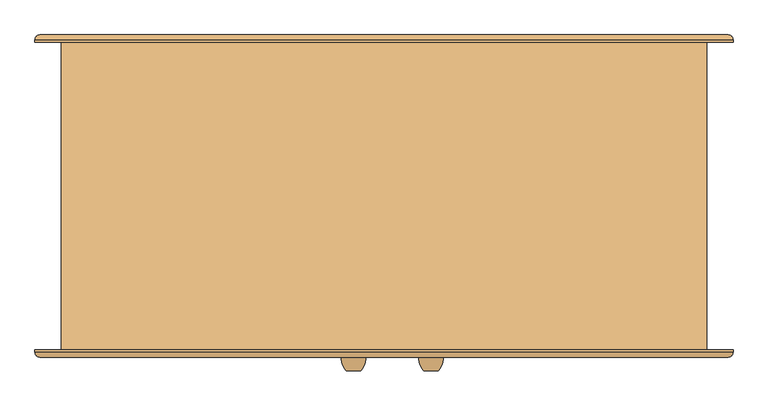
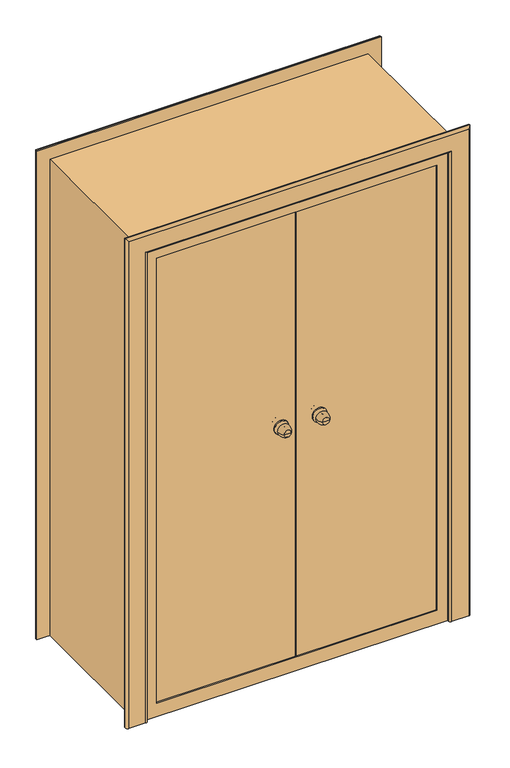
"""IFC4 building model written with IfcOpenShell, lengths in millimetres: door geometry, Наружная дверь 2-Навесная - Один проем наружу с порогом - 31173-2003 : ДСН ДКН М2 2100-1300 ГОСТ 31173-2003."""

from ifc_helpers import new_model, si_unit, point, frame, origin, place, context, project, spatial, polyline, circle_curve, ellipse_curve, trimmed, outline, extrude, faceted_brep, source, transform, mapped, element, save
from ifc_brep_helpers import plane_surface, cylinder_surface, revolved_surface, advanced_brep


def door_e9d63ae3(model_context):
    return source(origin(), model_context, "Body", "SolidModel", [
        advanced_brep(
        [(113.0, -363.0, 1100.0), (83.0, -363.0, 1100.0), (98.0, -363.0, 1100.0), (123.0, -333.0, 1100.0), (73.0, -333.0, 1100.0), (116.0, -333.0, 1100.0), (80.0, -333.0, 1100.0), (108.0, -325.0, 1100.0), (88.0, -325.0, 1100.0), (108.0, -319.0, 1100.0), (88.0, -319.0, 1100.0), (68.0, -319.0, 1100.0), (128.0, -319.0, 1100.0), (68.0, -313.0, 1100.0), (128.0, -313.0, 1100.0)],
        [
            (0, 1, circle_curve(frame((98.0, -363.0, 1100.0), z_axis=(0.0, -1.0, 0.0), x_axis=(-1.0, 0.0, 0.0)), 15.0)),
            (1, 2),
            (2, 0),
            (1, 0, circle_curve(frame((98.0, -363.0, 1100.0), z_axis=(0.0, -1.0, 0.0), x_axis=(-1.0, 0.0, 0.0)), 15.0)),
            (0, 3, circle_curve(frame((88.3773735, -338.1257912, 1100.0), z_axis=(0.0, 0.0, 1.0), x_axis=(-1.0, 0.0, 0.0)), 35.0)),
            (3, 4, circle_curve(frame((98.0, -333.0, 1100.0), z_axis=(0.0, -1.0, 0.0), x_axis=(-1.0, 0.0, 0.0)), 25.0)),
            (4, 1, circle_curve(frame((107.6226265, -338.1257912, 1100.0), z_axis=(0.0, 0.0, 1.0), x_axis=(1.0, 0.0, 0.0)), 35.0)),
            (4, 3, circle_curve(frame((98.0, -333.0, 1100.0), z_axis=(0.0, -1.0, 0.0), x_axis=(-1.0, 0.0, 0.0)), 25.0)),
            (3, 5),
            (5, 6, circle_curve(frame((98.0, -333.0, 1100.0), z_axis=(0.0, -1.0, 0.0), x_axis=(-1.0, 0.0, 0.0)), 18.0)),
            (6, 4),
            (6, 5, circle_curve(frame((98.0, -333.0, 1100.0), z_axis=(0.0, -1.0, 0.0), x_axis=(-1.0, 0.0, 0.0)), 18.0)),
            (5, 7, circle_curve(frame((116.0, -325.0, 1100.0), z_axis=(0.0, 0.0, -1.0), x_axis=(-1.0, 0.0, 0.0)), 8.0)),
            (7, 8, circle_curve(frame((98.0, -325.0, 1100.0), z_axis=(0.0, -1.0, 0.0), x_axis=(-1.0, 0.0, 0.0)), 10.0)),
            (8, 6, circle_curve(frame((80.0, -325.0, 1100.0), z_axis=(0.0, 0.0, -1.0), x_axis=(1.0, 0.0, 0.0)), 8.0)),
            (8, 7, circle_curve(frame((98.0, -325.0, 1100.0), z_axis=(0.0, -1.0, 0.0), x_axis=(-1.0, 0.0, 0.0)), 10.0)),
            (7, 9),
            (9, 10, circle_curve(frame((98.0, -319.0, 1100.0), z_axis=(0.0, -1.0, 0.0), x_axis=(-1.0, 0.0, 0.0)), 10.0)),
            (10, 8),
            (10, 9, circle_curve(frame((98.0, -319.0, 1100.0), z_axis=(0.0, -1.0, 0.0), x_axis=(-1.0, 0.0, 0.0)), 10.0)),
            (11, 12, circle_curve(frame((98.0, -319.0, 1100.0), z_axis=(0.0, -1.0, 0.0), x_axis=(1.0, 0.0, 0.0)), 30.0)),
            (12, 11, circle_curve(frame((98.0, -319.0, 1100.0), z_axis=(0.0, -1.0, 0.0), x_axis=(1.0, 0.0, 0.0)), 30.0)),
            (13, 14, circle_curve(frame((98.0, -313.0, 1100.0), z_axis=(0.0, 1.0, 0.0), x_axis=(1.0, 0.0, 0.0)), 30.0)),
            (14, 13, circle_curve(frame((98.0, -313.0, 1100.0), z_axis=(0.0, 1.0, 0.0), x_axis=(1.0, 0.0, 0.0)), 30.0)),
            (11, 13),
            (14, 12),
        ],
        [
            plane_surface(frame((98.0, -363.0, 1100.0), z_axis=(0.0, -1.0, 0.0), x_axis=(-1.0, 0.0, 0.0))),
            revolved_surface(trimmed(ellipse_curve(frame((107.6226265, -338.1257912, 1100.0), z_axis=(0.0, 0.0, -1.0), x_axis=(1.0, 0.0, 0.0)), 35.0, 35.0), [point((83.0, -363.0, 1100.0))], [point((73.0, -333.0, 1100.0))], True, "CARTESIAN"), (98.0, -393.0, 1100.0), (0.0, 1.0, 0.0)),
            plane_surface(frame((98.0, -333.0, 1100.0), z_axis=(0.0, 1.0, 0.0), x_axis=(-1.0, 0.0, 0.0))),
            revolved_surface(trimmed(ellipse_curve(frame((80.0, -325.0, 1100.0), z_axis=(0.0, 0.0, 1.0), x_axis=(1.0, 0.0, 0.0)), 8.0, 8.0), [point((80.0, -333.0, 1100.0))], [point((88.0, -325.0, 1100.0))], True, "CARTESIAN"), (98.0, -393.0, 1100.0), (0.0, 1.0, 0.0)),
            cylinder_surface(frame((98.0, -393.0, 1100.0), z_axis=(0.0, 1.0, 0.0), x_axis=(-1.0, 0.0, 0.0)), 10.0),
            plane_surface(frame((128.0, -319.0, 1100.0), z_axis=(0.0, -1.0, 0.0), x_axis=(0.0, 0.0, 1.0))),
            plane_surface(frame((128.0, -313.0, 1100.0), z_axis=(0.0, 1.0, 0.0), x_axis=(0.0, 0.0, -1.0))),
            cylinder_surface(frame((98.0, -313.0, 1100.0), z_axis=(0.0, -1.0, 0.0), x_axis=(1.0, 0.0, 0.0)), 30.0),
        ],
        [
            (0, [[1, 2, 3]]),
            (0, [[-2, 4, -3]]),
            (1, [[-1, 5, 6, 7]]),
            (1, [[-4, -7, 8, -5]]),
            (2, [[-6, 9, 10, 11]]),
            (2, [[-8, -11, 12, -9]]),
            (3, [[-10, 13, 14, 15]]),
            (3, [[-12, -15, 16, -13]]),
            (4, [[-14, 17, 18, 19]]),
            (4, [[-16, -19, 20, -17]]),
            (5, [[21, 22], [-18, -20]]),
            (6, [[23, 24]]),
            (7, [[-21, 25, -24, 26]]),
            (7, [[-22, -26, -23, -25]]),
        ],
    ),
        advanced_brep(
        [(83.0, -223.0, 1100.0), (113.0, -223.0, 1100.0), (98.0, -223.0, 1100.0), (73.0, -253.0, 1100.0), (123.0, -253.0, 1100.0), (80.0, -253.0, 1100.0), (116.0, -253.0, 1100.0), (88.0, -261.0, 1100.0), (108.0, -261.0, 1100.0), (88.0, -267.0, 1100.0), (108.0, -267.0, 1100.0), (128.0, -267.0, 1100.0), (68.0, -267.0, 1100.0), (128.0, -273.0, 1100.0), (68.0, -273.0, 1100.0)],
        [
            (0, 1, circle_curve(frame((98.0, -223.0, 1100.0), z_axis=(0.0, 1.0, 0.0), x_axis=(1.0, 0.0, 0.0)), 15.0)),
            (1, 2),
            (2, 0),
            (1, 0, circle_curve(frame((98.0, -223.0, 1100.0), z_axis=(0.0, 1.0, 0.0), x_axis=(1.0, 0.0, 0.0)), 15.0)),
            (0, 3, circle_curve(frame((107.6226265, -247.8742088, 1100.0), z_axis=(0.0, 0.0, 1.0), x_axis=(1.0, 0.0, 0.0)), 35.0)),
            (3, 4, circle_curve(frame((98.0, -253.0, 1100.0), z_axis=(0.0, 1.0, 0.0), x_axis=(1.0, 0.0, 0.0)), 25.0)),
            (4, 1, circle_curve(frame((88.3773735, -247.8742088, 1100.0), z_axis=(0.0, 0.0, 1.0), x_axis=(-1.0, 0.0, 0.0)), 35.0)),
            (4, 3, circle_curve(frame((98.0, -253.0, 1100.0), z_axis=(0.0, 1.0, 0.0), x_axis=(1.0, 0.0, 0.0)), 25.0)),
            (3, 5),
            (5, 6, circle_curve(frame((98.0, -253.0, 1100.0), z_axis=(0.0, 1.0, 0.0), x_axis=(1.0, 0.0, 0.0)), 18.0)),
            (6, 4),
            (6, 5, circle_curve(frame((98.0, -253.0, 1100.0), z_axis=(0.0, 1.0, 0.0), x_axis=(1.0, 0.0, 0.0)), 18.0)),
            (5, 7, circle_curve(frame((80.0, -261.0, 1100.0), z_axis=(0.0, 0.0, -1.0), x_axis=(1.0, 0.0, 0.0)), 8.0)),
            (7, 8, circle_curve(frame((98.0, -261.0, 1100.0), z_axis=(0.0, 1.0, 0.0), x_axis=(1.0, 0.0, 0.0)), 10.0)),
            (8, 6, circle_curve(frame((116.0, -261.0, 1100.0), z_axis=(0.0, 0.0, -1.0), x_axis=(-1.0, 0.0, 0.0)), 8.0)),
            (8, 7, circle_curve(frame((98.0, -261.0, 1100.0), z_axis=(0.0, 1.0, 0.0), x_axis=(1.0, 0.0, 0.0)), 10.0)),
            (7, 9),
            (9, 10, circle_curve(frame((98.0, -267.0, 1100.0), z_axis=(0.0, 1.0, 0.0), x_axis=(1.0, 0.0, 0.0)), 10.0)),
            (10, 8),
            (10, 9, circle_curve(frame((98.0, -267.0, 1100.0), z_axis=(0.0, 1.0, 0.0), x_axis=(1.0, 0.0, 0.0)), 10.0)),
            (11, 12, circle_curve(frame((98.0, -267.0, 1100.0), z_axis=(0.0, 1.0, 0.0), x_axis=(-1.0, 0.0, 0.0)), 30.0)),
            (12, 11, circle_curve(frame((98.0, -267.0, 1100.0), z_axis=(0.0, 1.0, 0.0), x_axis=(-1.0, 0.0, 0.0)), 30.0)),
            (13, 14, circle_curve(frame((98.0, -273.0, 1100.0), z_axis=(0.0, -1.0, 0.0), x_axis=(-1.0, 0.0, 0.0)), 30.0)),
            (14, 13, circle_curve(frame((98.0, -273.0, 1100.0), z_axis=(0.0, -1.0, 0.0), x_axis=(-1.0, 0.0, 0.0)), 30.0)),
            (11, 13),
            (14, 12),
        ],
        [
            plane_surface(frame((98.0, -223.0, 1100.0), z_axis=(0.0, 1.0, 0.0), x_axis=(1.0, 0.0, 0.0))),
            revolved_surface(trimmed(ellipse_curve(frame((88.3773735, -247.8742088, 1100.0), z_axis=(0.0, 0.0, -1.0), x_axis=(-1.0, 0.0, 0.0)), 35.0, 35.0), [point((113.0, -223.0, 1100.0))], [point((123.0, -253.0, 1100.0))], True, "CARTESIAN"), (98.0, -193.0, 1100.0), (0.0, -1.0, 0.0)),
            plane_surface(frame((98.0, -253.0, 1100.0), z_axis=(0.0, -1.0, 0.0), x_axis=(1.0, 0.0, 0.0))),
            revolved_surface(trimmed(ellipse_curve(frame((116.0, -261.0, 1100.0), z_axis=(0.0, 0.0, 1.0), x_axis=(-1.0, 0.0, 0.0)), 8.0, 8.0), [point((116.0, -253.0, 1100.0))], [point((108.0, -261.0, 1100.0))], True, "CARTESIAN"), (98.0, -193.0, 1100.0), (0.0, -1.0, 0.0)),
            cylinder_surface(frame((98.0, -193.0, 1100.0), z_axis=(0.0, -1.0, 0.0), x_axis=(1.0, 0.0, 0.0)), 10.0),
            plane_surface(frame((68.0, -267.0, 1100.0), z_axis=(0.0, 1.0, 0.0), x_axis=(0.0, 0.0, 1.0))),
            plane_surface(frame((68.0, -273.0, 1100.0), z_axis=(0.0, -1.0, 0.0), x_axis=(0.0, 0.0, -1.0))),
            cylinder_surface(frame((98.0, -273.0, 1100.0), z_axis=(0.0, 1.0, 0.0), x_axis=(-1.0, 0.0, 0.0)), 30.0),
        ],
        [
            (0, [[1, 2, 3]]),
            (0, [[-2, 4, -3]]),
            (1, [[-1, 5, 6, 7]]),
            (1, [[-4, -7, 8, -5]]),
            (2, [[-6, 9, 10, 11]]),
            (2, [[-8, -11, 12, -9]]),
            (3, [[-10, 13, 14, 15]]),
            (3, [[-12, -15, 16, -13]]),
            (4, [[-14, 17, 18, 19]]),
            (4, [[-16, -19, 20, -17]]),
            (5, [[21, 22], [-18, -20]]),
            (6, [[23, 24]]),
            (7, [[-21, 25, -24, 26]]),
            (7, [[-22, -26, -23, -25]]),
        ],
    ),
        advanced_brep(
        [(-48.0, -363.0, 1100.0), (-78.0, -363.0, 1100.0), (-63.0, -363.0, 1100.0), (-38.0, -333.0, 1100.0), (-88.0, -333.0, 1100.0), (-45.0, -333.0, 1100.0), (-81.0, -333.0, 1100.0), (-53.0, -325.0, 1100.0), (-73.0, -325.0, 1100.0), (-53.0, -319.0, 1100.0), (-73.0, -319.0, 1100.0), (-93.0, -319.0, 1100.0), (-33.0, -319.0, 1100.0), (-93.0, -313.0, 1100.0), (-33.0, -313.0, 1100.0)],
        [
            (0, 1, circle_curve(frame((-63.0, -363.0, 1100.0), z_axis=(0.0, -1.0, 0.0), x_axis=(-1.0, 0.0, 0.0)), 15.0)),
            (1, 2),
            (2, 0),
            (1, 0, circle_curve(frame((-63.0, -363.0, 1100.0), z_axis=(0.0, -1.0, 0.0), x_axis=(-1.0, 0.0, 0.0)), 15.0)),
            (0, 3, circle_curve(frame((-72.6226265, -338.1257912, 1100.0), z_axis=(0.0, 0.0, 1.0), x_axis=(-1.0, 0.0, 0.0)), 35.0)),
            (3, 4, circle_curve(frame((-63.0, -333.0, 1100.0), z_axis=(0.0, -1.0, 0.0), x_axis=(-1.0, 0.0, 0.0)), 25.0)),
            (4, 1, circle_curve(frame((-53.3773735, -338.1257912, 1100.0), z_axis=(0.0, 0.0, 1.0), x_axis=(1.0, 0.0, 0.0)), 35.0)),
            (4, 3, circle_curve(frame((-63.0, -333.0, 1100.0), z_axis=(0.0, -1.0, 0.0), x_axis=(-1.0, 0.0, 0.0)), 25.0)),
            (3, 5),
            (5, 6, circle_curve(frame((-63.0, -333.0, 1100.0), z_axis=(0.0, -1.0, 0.0), x_axis=(-1.0, 0.0, 0.0)), 18.0)),
            (6, 4),
            (6, 5, circle_curve(frame((-63.0, -333.0, 1100.0), z_axis=(0.0, -1.0, 0.0), x_axis=(-1.0, 0.0, 0.0)), 18.0)),
            (5, 7, circle_curve(frame((-45.0, -325.0, 1100.0), z_axis=(0.0, 0.0, -1.0), x_axis=(-1.0, 0.0, 0.0)), 8.0)),
            (7, 8, circle_curve(frame((-63.0, -325.0, 1100.0), z_axis=(0.0, -1.0, 0.0), x_axis=(-1.0, 0.0, 0.0)), 10.0)),
            (8, 6, circle_curve(frame((-81.0, -325.0, 1100.0), z_axis=(0.0, 0.0, -1.0), x_axis=(1.0, 0.0, 0.0)), 8.0)),
            (8, 7, circle_curve(frame((-63.0, -325.0, 1100.0), z_axis=(0.0, -1.0, 0.0), x_axis=(-1.0, 0.0, 0.0)), 10.0)),
            (7, 9),
            (9, 10, circle_curve(frame((-63.0, -319.0, 1100.0), z_axis=(0.0, -1.0, 0.0), x_axis=(-1.0, 0.0, 0.0)), 10.0)),
            (10, 8),
            (10, 9, circle_curve(frame((-63.0, -319.0, 1100.0), z_axis=(0.0, -1.0, 0.0), x_axis=(-1.0, 0.0, 0.0)), 10.0)),
            (11, 12, circle_curve(frame((-63.0, -319.0, 1100.0), z_axis=(0.0, -1.0, 0.0), x_axis=(1.0, 0.0, 0.0)), 30.0)),
            (12, 11, circle_curve(frame((-63.0, -319.0, 1100.0), z_axis=(0.0, -1.0, 0.0), x_axis=(1.0, 0.0, 0.0)), 30.0)),
            (13, 14, circle_curve(frame((-63.0, -313.0, 1100.0), z_axis=(0.0, 1.0, 0.0), x_axis=(1.0, 0.0, 0.0)), 30.0)),
            (14, 13, circle_curve(frame((-63.0, -313.0, 1100.0), z_axis=(0.0, 1.0, 0.0), x_axis=(1.0, 0.0, 0.0)), 30.0)),
            (11, 13),
            (14, 12),
        ],
        [
            plane_surface(frame((-63.0, -363.0, 1100.0), z_axis=(0.0, -1.0, 0.0), x_axis=(-1.0, 0.0, 0.0))),
            revolved_surface(trimmed(ellipse_curve(frame((-53.3773735, -338.1257912, 1100.0), z_axis=(0.0, 0.0, -1.0), x_axis=(1.0, 0.0, 0.0)), 35.0, 35.0), [point((-78.0, -363.0, 1100.0))], [point((-88.0, -333.0, 1100.0))], True, "CARTESIAN"), (-63.0, -393.0, 1100.0), (0.0, 1.0, 0.0)),
            plane_surface(frame((-63.0, -333.0, 1100.0), z_axis=(0.0, 1.0, 0.0), x_axis=(-1.0, 0.0, 0.0))),
            revolved_surface(trimmed(ellipse_curve(frame((-81.0, -325.0, 1100.0), z_axis=(0.0, 0.0, 1.0), x_axis=(1.0, 0.0, 0.0)), 8.0, 8.0), [point((-81.0, -333.0, 1100.0))], [point((-73.0, -325.0, 1100.0))], True, "CARTESIAN"), (-63.0, -393.0, 1100.0), (0.0, 1.0, 0.0)),
            cylinder_surface(frame((-63.0, -393.0, 1100.0), z_axis=(0.0, 1.0, 0.0), x_axis=(-1.0, 0.0, 0.0)), 10.0),
            plane_surface(frame((-33.0, -319.0, 1100.0), z_axis=(0.0, -1.0, 0.0), x_axis=(0.0, 0.0, 1.0))),
            plane_surface(frame((-33.0, -313.0, 1100.0), z_axis=(0.0, 1.0, 0.0), x_axis=(0.0, 0.0, -1.0))),
            cylinder_surface(frame((-63.0, -313.0, 1100.0), z_axis=(0.0, -1.0, 0.0), x_axis=(1.0, 0.0, 0.0)), 30.0),
        ],
        [
            (0, [[1, 2, 3]]),
            (0, [[-2, 4, -3]]),
            (1, [[-1, 5, 6, 7]]),
            (1, [[-4, -7, 8, -5]]),
            (2, [[-6, 9, 10, 11]]),
            (2, [[-8, -11, 12, -9]]),
            (3, [[-10, 13, 14, 15]]),
            (3, [[-12, -15, 16, -13]]),
            (4, [[-14, 17, 18, 19]]),
            (4, [[-16, -19, 20, -17]]),
            (5, [[21, 22], [-18, -20]]),
            (6, [[23, 24]]),
            (7, [[-21, 25, -24, 26]]),
            (7, [[-22, -26, -23, -25]]),
        ],
    ),
        advanced_brep(
        [(-78.0, -223.0, 1100.0), (-48.0, -223.0, 1100.0), (-63.0, -223.0, 1100.0), (-88.0, -253.0, 1100.0), (-38.0, -253.0, 1100.0), (-81.0, -253.0, 1100.0), (-45.0, -253.0, 1100.0), (-73.0, -261.0, 1100.0), (-53.0, -261.0, 1100.0), (-73.0, -267.0, 1100.0), (-53.0, -267.0, 1100.0), (-33.0, -267.0, 1100.0), (-93.0, -267.0, 1100.0), (-33.0, -273.0, 1100.0), (-93.0, -273.0, 1100.0)],
        [
            (0, 1, circle_curve(frame((-63.0, -223.0, 1100.0), z_axis=(0.0, 1.0, 0.0), x_axis=(1.0, 0.0, 0.0)), 15.0)),
            (1, 2),
            (2, 0),
            (1, 0, circle_curve(frame((-63.0, -223.0, 1100.0), z_axis=(0.0, 1.0, 0.0), x_axis=(1.0, 0.0, 0.0)), 15.0)),
            (0, 3, circle_curve(frame((-53.3773735, -247.8742088, 1100.0), z_axis=(0.0, 0.0, 1.0), x_axis=(1.0, 0.0, 0.0)), 35.0)),
            (3, 4, circle_curve(frame((-63.0, -253.0, 1100.0), z_axis=(0.0, 1.0, 0.0), x_axis=(1.0, 0.0, 0.0)), 25.0)),
            (4, 1, circle_curve(frame((-72.6226265, -247.8742088, 1100.0), z_axis=(0.0, 0.0, 1.0), x_axis=(-1.0, 0.0, 0.0)), 35.0)),
            (4, 3, circle_curve(frame((-63.0, -253.0, 1100.0), z_axis=(0.0, 1.0, 0.0), x_axis=(1.0, 0.0, 0.0)), 25.0)),
            (3, 5),
            (5, 6, circle_curve(frame((-63.0, -253.0, 1100.0), z_axis=(0.0, 1.0, 0.0), x_axis=(1.0, 0.0, 0.0)), 18.0)),
            (6, 4),
            (6, 5, circle_curve(frame((-63.0, -253.0, 1100.0), z_axis=(0.0, 1.0, 0.0), x_axis=(1.0, 0.0, 0.0)), 18.0)),
            (5, 7, circle_curve(frame((-81.0, -261.0, 1100.0), z_axis=(0.0, 0.0, -1.0), x_axis=(1.0, 0.0, 0.0)), 8.0)),
            (7, 8, circle_curve(frame((-63.0, -261.0, 1100.0), z_axis=(0.0, 1.0, 0.0), x_axis=(1.0, 0.0, 0.0)), 10.0)),
            (8, 6, circle_curve(frame((-45.0, -261.0, 1100.0), z_axis=(0.0, 0.0, -1.0), x_axis=(-1.0, 0.0, 0.0)), 8.0)),
            (8, 7, circle_curve(frame((-63.0, -261.0, 1100.0), z_axis=(0.0, 1.0, 0.0), x_axis=(1.0, 0.0, 0.0)), 10.0)),
            (7, 9),
            (9, 10, circle_curve(frame((-63.0, -267.0, 1100.0), z_axis=(0.0, 1.0, 0.0), x_axis=(1.0, 0.0, 0.0)), 10.0)),
            (10, 8),
            (10, 9, circle_curve(frame((-63.0, -267.0, 1100.0), z_axis=(0.0, 1.0, 0.0), x_axis=(1.0, 0.0, 0.0)), 10.0)),
            (11, 12, circle_curve(frame((-63.0, -267.0, 1100.0), z_axis=(0.0, 1.0, 0.0), x_axis=(-1.0, 0.0, 0.0)), 30.0)),
            (12, 11, circle_curve(frame((-63.0, -267.0, 1100.0), z_axis=(0.0, 1.0, 0.0), x_axis=(-1.0, 0.0, 0.0)), 30.0)),
            (13, 14, circle_curve(frame((-63.0, -273.0, 1100.0), z_axis=(0.0, -1.0, 0.0), x_axis=(-1.0, 0.0, 0.0)), 30.0)),
            (14, 13, circle_curve(frame((-63.0, -273.0, 1100.0), z_axis=(0.0, -1.0, 0.0), x_axis=(-1.0, 0.0, 0.0)), 30.0)),
            (11, 13),
            (14, 12),
        ],
        [
            plane_surface(frame((-63.0, -223.0, 1100.0), z_axis=(0.0, 1.0, 0.0), x_axis=(1.0, 0.0, 0.0))),
            revolved_surface(trimmed(ellipse_curve(frame((-72.6226265, -247.8742088, 1100.0), z_axis=(0.0, 0.0, -1.0), x_axis=(-1.0, 0.0, 0.0)), 35.0, 35.0), [point((-48.0, -223.0, 1100.0))], [point((-38.0, -253.0, 1100.0))], True, "CARTESIAN"), (-63.0, -193.0, 1100.0), (0.0, -1.0, 0.0)),
            plane_surface(frame((-63.0, -253.0, 1100.0), z_axis=(0.0, -1.0, 0.0), x_axis=(1.0, 0.0, 0.0))),
            revolved_surface(trimmed(ellipse_curve(frame((-45.0, -261.0, 1100.0), z_axis=(0.0, 0.0, 1.0), x_axis=(-1.0, 0.0, 0.0)), 8.0, 8.0), [point((-45.0, -253.0, 1100.0))], [point((-53.0, -261.0, 1100.0))], True, "CARTESIAN"), (-63.0, -193.0, 1100.0), (0.0, -1.0, 0.0)),
            cylinder_surface(frame((-63.0, -193.0, 1100.0), z_axis=(0.0, -1.0, 0.0), x_axis=(1.0, 0.0, 0.0)), 10.0),
            plane_surface(frame((-93.0, -267.0, 1100.0), z_axis=(0.0, 1.0, 0.0), x_axis=(0.0, 0.0, 1.0))),
            plane_surface(frame((-93.0, -273.0, 1100.0), z_axis=(0.0, -1.0, 0.0), x_axis=(0.0, 0.0, -1.0))),
            cylinder_surface(frame((-63.0, -273.0, 1100.0), z_axis=(0.0, 1.0, 0.0), x_axis=(-1.0, 0.0, 0.0)), 30.0),
        ],
        [
            (0, [[1, 2, 3]]),
            (0, [[-2, 4, -3]]),
            (1, [[-1, 5, 6, 7]]),
            (1, [[-4, -7, 8, -5]]),
            (2, [[-6, 9, 10, 11]]),
            (2, [[-8, -11, 12, -9]]),
            (3, [[-10, 13, 14, 15]]),
            (3, [[-12, -15, 16, -13]]),
            (4, [[-14, 17, 18, 19]]),
            (4, [[-16, -19, 20, -17]]),
            (5, [[21, 22], [-18, -20]]),
            (6, [[23, 24]]),
            (7, [[-21, 25, -24, 26]]),
            (7, [[-22, -26, -23, -25]]),
        ],
    ),
        faceted_brep([(38.0, -273.0, 25.0), (625.0, -273.0, 25.0), (625.0, -278.0, 25.0), (38.0, -278.0, 25.0), (38.0, -273.0, 2075.0), (625.0, -273.0, 2075.0), (625.0, -278.0, 2075.0), (38.0, -278.0, 2075.0), (38.0, -278.0, 2055.0), (605.0, -278.0, 2055.0), (605.0, -278.0, 45.0), (38.0, -278.0, 45.0), (38.0, -294.0, 45.0), (38.0, -294.0, 2055.0), (605.0, -313.0, 2055.0), (605.0, -313.0, 45.0), (3.0, -313.0, 45.0), (3.0, -294.0, 45.0), (3.0, -313.0, 2055.0), (3.0, -294.0, 2055.0)], [[[0, 1, 2, 3]], [[4, 5, 1, 0]], [[5, 6, 2, 1]], [[6, 7, 8, 9, 10, 11, 3, 2]], [[4, 0, 3, 11, 12, 13, 8, 7]], [[9, 14, 15, 10]], [[11, 10, 15, 16, 17, 12]], [[14, 18, 16, 15]], [[18, 19, 17, 16]], [[19, 13, 12, 17]], [[9, 8, 13, 19, 18, 14]], [[6, 5, 4, 7]]]),
        faceted_brep([(32.0, -278.0, 25.0), (-625.0, -278.0, 25.0), (-625.0, -273.0, 25.0), (32.0, -273.0, 25.0), (32.0, -278.0, 45.0), (-605.0, -278.0, 45.0), (-605.0, -278.0, 2055.0), (32.0, -278.0, 2055.0), (32.0, -278.0, 2075.0), (-625.0, -278.0, 2075.0), (-625.0, -273.0, 2075.0), (32.0, -273.0, 2075.0), (32.0, -288.0, 2055.0), (32.0, -288.0, 45.0), (-3.0, -288.0, 45.0), (-3.0, -313.0, 45.0), (-605.0, -313.0, 45.0), (-605.0, -313.0, 2055.0), (-3.0, -313.0, 2055.0), (-3.0, -288.0, 2055.0)], [[[0, 1, 2, 3]], [[0, 4, 5, 6, 7, 8, 9, 1]], [[1, 9, 10, 2]], [[10, 11, 3, 2]], [[3, 11, 8, 7, 12, 13, 4, 0]], [[5, 4, 13, 14, 15, 16]], [[17, 6, 5, 16]], [[18, 17, 16, 15]], [[19, 18, 15, 14]], [[12, 19, 14, 13]], [[11, 10, 9, 8]], [[7, 6, 17, 18, 19, 12]]]),
        extrude(outline(polyline([(0.0, 635.0), (0.0, 650.0), (2100.0, 650.0), (2100.0, -650.0), (0.0, -650.0), (0.0, -635.0), (2085.0, -635.0), (2085.0, 635.0), (0.0, 635.0)])), frame((0.0, -280.0, 0.0), z_axis=(0.0, 1.0, 0.0), x_axis=(0.0, 0.0, 1.0)), (0.0, 0.0, 1.0), 600.0),
        faceted_brep([(650.0, -280.0, 0.0), (650.0, -320.0, 0.0), (-650.0, -320.0, 0.0), (-650.0, -280.0, 0.0), (-650.0, -320.0, 2100.0), (-650.0, -280.0, 2100.0), (650.0, -320.0, 2100.0), (-590.0, -320.0, 2040.0), (590.0, -320.0, 2040.0), (590.0, -320.0, 60.0), (-590.0, -320.0, 60.0), (650.0, -280.0, 2100.0), (-610.0, -280.0, 40.0), (610.0, -280.0, 40.0), (610.0, -280.0, 2060.0), (-610.0, -280.0, 2060.0), (610.0, -315.0, 40.0), (-610.0, -315.0, 40.0), (-610.0, -315.0, 2060.0), (610.0, -315.0, 2060.0), (-590.0, -315.0, 60.0), (590.0, -315.0, 60.0), (590.0, -315.0, 2040.0), (-590.0, -315.0, 2040.0)], [[[0, 1, 2, 3]], [[3, 2, 4, 5]], [[2, 1, 6, 4], [7, 8, 9, 10]], [[5, 11, 0, 3], [12, 13, 14, 15]], [[16, 13, 12, 17]], [[17, 12, 15, 18]], [[18, 19, 16, 17], [20, 21, 22, 23]], [[9, 21, 20, 10]], [[10, 20, 23, 7]], [[11, 6, 1, 0]], [[19, 14, 13, 16]], [[8, 22, 21, 9]], [[5, 4, 6, 11]], [[18, 15, 14, 19]], [[7, 23, 22, 8]]]),
        advanced_brep(
        [(-725.0, -320.0, 0.0), (-635.0, -320.0, 0.0), (-635.0, -325.0, 0.0), (-645.0, -335.0, 0.0), (-715.0, -335.0, 0.0), (-725.0, -325.0, 0.0), (-725.0, -320.0, 2175.0), (725.0, -320.0, 2175.0), (725.0, -320.0, 0.0), (635.0, -320.0, 0.0), (635.0, -320.0, 2085.0), (-635.0, -320.0, 2085.0), (-635.0, -325.0, 2085.0), (-645.0, -335.0, 2095.0), (645.0, -335.0, 2095.0), (645.0, -335.0, 0.0), (715.0, -335.0, 0.0), (715.0, -335.0, 2165.0), (-715.0, -335.0, 2165.0), (-725.0, -325.0, 2175.0), (725.0, -325.0, 2175.0), (725.0, -325.0, 0.0), (635.0, -325.0, 0.0), (635.0, -325.0, 2085.0)],
        [
            (0, 1),
            (1, 2),
            (2, 3, circle_curve(frame((-645.0, -325.0, 0.0), z_axis=(0.0, 0.0, -1.0), x_axis=(-1.0, 0.0, 0.0)), 10.0)),
            (3, 4),
            (4, 5, circle_curve(frame((-715.0, -325.0, 0.0), z_axis=(0.0, 0.0, -1.0), x_axis=(-1.0, 0.0, 0.0)), 10.0)),
            (5, 0),
            (0, 6),
            (6, 7),
            (7, 8),
            (8, 9),
            (9, 10),
            (10, 11),
            (11, 1),
            (11, 12),
            (12, 2),
            (12, 13, ellipse_curve(frame((-645.0, -325.0, 2095.0), z_axis=(-0.7071067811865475, 0.0, -0.7071067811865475), x_axis=(0.7071067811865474, 0.0, -0.7071067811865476)), 14.1421356, 10.0)),
            (13, 3),
            (13, 14),
            (14, 15),
            (15, 16),
            (16, 17),
            (17, 18),
            (18, 4),
            (18, 19, ellipse_curve(frame((-715.0, -325.0, 2165.0), z_axis=(-0.7071067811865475, 0.0, -0.7071067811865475), x_axis=(0.7071067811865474, 0.0, -0.7071067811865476)), 14.1421356, 10.0)),
            (19, 5),
            (19, 6),
            (7, 20),
            (20, 21),
            (21, 8),
            (21, 16, circle_curve(frame((715.0, -325.0, 0.0), z_axis=(0.0, 0.0, -1.0), x_axis=(1.0, 0.0, 0.0)), 10.0)),
            (15, 22, circle_curve(frame((645.0, -325.0, 0.0), z_axis=(0.0, 0.0, -1.0), x_axis=(1.0, 0.0, 0.0)), 10.0)),
            (22, 9),
            (23, 10),
            (22, 23),
            (14, 23, ellipse_curve(frame((645.0, -325.0, 2095.0), z_axis=(0.7071067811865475, 0.0, -0.7071067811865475), x_axis=(0.7071067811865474, 0.0, 0.7071067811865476)), 14.1421356, 10.0)),
            (20, 17, ellipse_curve(frame((715.0, -325.0, 2165.0), z_axis=(0.7071067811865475, 0.0, -0.7071067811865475), x_axis=(0.7071067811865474, 0.0, 0.7071067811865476)), 14.1421356, 10.0)),
            (23, 12),
            (20, 19),
        ],
        [
            plane_surface(frame((-670.0, -320.0, 0.0), z_axis=(0.0, 0.0, -1.0), x_axis=(0.0, -1.0, 0.0))),
            plane_surface(frame((-725.0, -320.0, 0.0), z_axis=(0.0, 1.0, 0.0), x_axis=(0.0, 0.0, 1.0))),
            plane_surface(frame((-635.0, -320.0, 0.0), z_axis=(1.0, 0.0, 0.0), x_axis=(0.0, 0.0, 1.0))),
            cylinder_surface(frame((-645.0, -325.0, 0.0), z_axis=(0.0, 0.0, -1.0), x_axis=(-1.0, 0.0, 0.0)), 10.0),
            plane_surface(frame((-645.0, -335.0, 0.0), z_axis=(0.0, -1.0, 0.0), x_axis=(0.0, 0.0, 1.0))),
            cylinder_surface(frame((-715.0, -325.0, 0.0), z_axis=(0.0, 0.0, -1.0), x_axis=(-1.0, 0.0, 0.0)), 10.0),
            plane_surface(frame((-725.0, -325.0, 0.0), z_axis=(-1.0, 0.0, 0.0), x_axis=(0.0, 0.0, 1.0))),
            plane_surface(frame((725.0, -325.0, 2175.0), z_axis=(1.0, 0.0, 0.0), x_axis=(0.0, 0.0, -1.0))),
            plane_surface(frame((670.0, -320.0, 0.0), z_axis=(0.0, 0.0, -1.0), x_axis=(0.0, -1.0, 0.0))),
            plane_surface(frame((635.0, -320.0, 2085.0), z_axis=(-1.0, 0.0, 0.0), x_axis=(0.0, 0.0, -1.0))),
            cylinder_surface(frame((645.0, -325.0, 2120.0), z_axis=(0.0, 0.0, 1.0), x_axis=(1.0, 0.0, 0.0)), 10.0),
            cylinder_surface(frame((715.0, -325.0, 2120.0), z_axis=(0.0, 0.0, 1.0), x_axis=(1.0, 0.0, 0.0)), 10.0),
            plane_surface(frame((-635.0, -320.0, 2085.0), z_axis=(0.0, 0.0, -1.0), x_axis=(1.0, 0.0, 0.0))),
            cylinder_surface(frame((-670.0, -325.0, 2095.0), z_axis=(-1.0, 0.0, 0.0), x_axis=(0.0, 0.0, 1.0)), 10.0),
            cylinder_surface(frame((-670.0, -325.0, 2165.0), z_axis=(-1.0, 0.0, 0.0), x_axis=(0.0, 0.0, 1.0)), 10.0),
            plane_surface(frame((-725.0, -325.0, 2175.0), z_axis=(0.0, 0.0, 1.0), x_axis=(1.0, 0.0, 0.0))),
        ],
        [
            (0, [[1, 2, 3, 4, 5, 6]]),
            (1, [[-1, 7, 8, 9, 10, 11, 12, 13]]),
            (2, [[-2, -13, 14, 15]]),
            (3, [[-3, -15, 16, 17]]),
            (4, [[-4, -17, 18, 19, 20, 21, 22, 23]]),
            (5, [[-5, -23, 24, 25]]),
            (6, [[-6, -25, 26, -7]]),
            (7, [[27, 28, 29, -9]]),
            (8, [[-29, 30, -20, 31, 32, -10]]),
            (9, [[33, -11, -32, 34]]),
            (10, [[35, -34, -31, -19]]),
            (11, [[36, -21, -30, -28]]),
            (12, [[-14, -12, -33, 37]]),
            (13, [[-16, -37, -35, -18]]),
            (14, [[-24, -22, -36, 38]]),
            (15, [[-26, -38, -27, -8]]),
        ],
    ),
        advanced_brep(
        [(725.0, 320.0, 0.0), (635.0, 320.0, 0.0), (635.0, 325.0, 0.0), (645.0, 335.0, 0.0), (715.0, 335.0, 0.0), (725.0, 325.0, 0.0), (725.0, 320.0, 2175.0), (-725.0, 320.0, 2175.0), (-725.0, 320.0, 0.0), (-635.0, 320.0, 0.0), (-635.0, 320.0, 2085.0), (635.0, 320.0, 2085.0), (635.0, 325.0, 2085.0), (645.0, 335.0, 2095.0), (-645.0, 335.0, 2095.0), (-645.0, 335.0, 0.0), (-715.0, 335.0, 0.0), (-715.0, 335.0, 2165.0), (715.0, 335.0, 2165.0), (725.0, 325.0, 2175.0), (-725.0, 325.0, 2175.0), (-725.0, 325.0, 0.0), (-635.0, 325.0, 0.0), (-635.0, 325.0, 2085.0)],
        [
            (0, 1),
            (1, 2),
            (2, 3, circle_curve(frame((645.0, 325.0, 0.0), z_axis=(0.0, 0.0, -1.0), x_axis=(1.0, 0.0, 0.0)), 10.0)),
            (3, 4),
            (4, 5, circle_curve(frame((715.0, 325.0, 0.0), z_axis=(0.0, 0.0, -1.0), x_axis=(1.0, 0.0, 0.0)), 10.0)),
            (5, 0),
            (0, 6),
            (6, 7),
            (7, 8),
            (8, 9),
            (9, 10),
            (10, 11),
            (11, 1),
            (11, 12),
            (12, 2),
            (12, 13, ellipse_curve(frame((645.0, 325.0, 2095.0), z_axis=(0.7071067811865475, 0.0, -0.7071067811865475), x_axis=(-0.7071067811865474, 0.0, -0.7071067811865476)), 14.1421356, 10.0)),
            (13, 3),
            (13, 14),
            (14, 15),
            (15, 16),
            (16, 17),
            (17, 18),
            (18, 4),
            (18, 19, ellipse_curve(frame((715.0, 325.0, 2165.0), z_axis=(0.7071067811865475, 0.0, -0.7071067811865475), x_axis=(-0.7071067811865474, 0.0, -0.7071067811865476)), 14.1421356, 10.0)),
            (19, 5),
            (19, 6),
            (7, 20),
            (20, 21),
            (21, 8),
            (21, 16, circle_curve(frame((-715.0, 325.0, 0.0), z_axis=(0.0, 0.0, -1.0), x_axis=(-1.0, 0.0, 0.0)), 10.0)),
            (15, 22, circle_curve(frame((-645.0, 325.0, 0.0), z_axis=(0.0, 0.0, -1.0), x_axis=(-1.0, 0.0, 0.0)), 10.0)),
            (22, 9),
            (23, 10),
            (22, 23),
            (14, 23, ellipse_curve(frame((-645.0, 325.0, 2095.0), z_axis=(-0.7071067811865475, 0.0, -0.7071067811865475), x_axis=(-0.7071067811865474, 0.0, 0.7071067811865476)), 14.1421356, 10.0)),
            (20, 17, ellipse_curve(frame((-715.0, 325.0, 2165.0), z_axis=(-0.7071067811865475, 0.0, -0.7071067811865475), x_axis=(-0.7071067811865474, 0.0, 0.7071067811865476)), 14.1421356, 10.0)),
            (23, 12),
            (20, 19),
        ],
        [
            plane_surface(frame((670.0, 320.0, 0.0), z_axis=(0.0, 0.0, -1.0), x_axis=(0.0, -1.0, 0.0))),
            plane_surface(frame((725.0, 320.0, 0.0), z_axis=(0.0, -1.0, 0.0), x_axis=(0.0, 0.0, 1.0))),
            plane_surface(frame((635.0, 320.0, 0.0), z_axis=(-1.0, 0.0, 0.0), x_axis=(0.0, 0.0, 1.0))),
            cylinder_surface(frame((645.0, 325.0, 0.0), z_axis=(0.0, 0.0, -1.0), x_axis=(1.0, 0.0, 0.0)), 10.0),
            plane_surface(frame((645.0, 335.0, 0.0), z_axis=(0.0, 1.0, 0.0), x_axis=(0.0, 0.0, 1.0))),
            cylinder_surface(frame((715.0, 325.0, 0.0), z_axis=(0.0, 0.0, -1.0), x_axis=(1.0, 0.0, 0.0)), 10.0),
            plane_surface(frame((725.0, 325.0, 0.0), z_axis=(1.0, 0.0, 0.0), x_axis=(0.0, 0.0, 1.0))),
            plane_surface(frame((-725.0, 325.0, 2175.0), z_axis=(-1.0, 0.0, 0.0), x_axis=(0.0, 0.0, -1.0))),
            plane_surface(frame((-670.0, 320.0, 0.0), z_axis=(0.0, 0.0, -1.0), x_axis=(0.0, -1.0, 0.0))),
            plane_surface(frame((-635.0, 320.0, 2085.0), z_axis=(1.0, 0.0, 0.0), x_axis=(0.0, 0.0, -1.0))),
            cylinder_surface(frame((-645.0, 325.0, 2120.0), z_axis=(0.0, 0.0, 1.0), x_axis=(-1.0, 0.0, 0.0)), 10.0),
            cylinder_surface(frame((-715.0, 325.0, 2120.0), z_axis=(0.0, 0.0, 1.0), x_axis=(-1.0, 0.0, 0.0)), 10.0),
            plane_surface(frame((635.0, 320.0, 2085.0), z_axis=(0.0, 0.0, -1.0), x_axis=(-1.0, 0.0, 0.0))),
            cylinder_surface(frame((670.0, 325.0, 2095.0), z_axis=(1.0, 0.0, 0.0), x_axis=(0.0, 0.0, 1.0)), 10.0),
            cylinder_surface(frame((670.0, 325.0, 2165.0), z_axis=(1.0, 0.0, 0.0), x_axis=(0.0, 0.0, 1.0)), 10.0),
            plane_surface(frame((725.0, 325.0, 2175.0), z_axis=(0.0, 0.0, 1.0), x_axis=(-1.0, 0.0, 0.0))),
        ],
        [
            (0, [[1, 2, 3, 4, 5, 6]]),
            (1, [[-1, 7, 8, 9, 10, 11, 12, 13]]),
            (2, [[-2, -13, 14, 15]]),
            (3, [[-3, -15, 16, 17]]),
            (4, [[-4, -17, 18, 19, 20, 21, 22, 23]]),
            (5, [[-5, -23, 24, 25]]),
            (6, [[-6, -25, 26, -7]]),
            (7, [[27, 28, 29, -9]]),
            (8, [[-29, 30, -20, 31, 32, -10]]),
            (9, [[33, -11, -32, 34]]),
            (10, [[35, -34, -31, -19]]),
            (11, [[36, -21, -30, -28]]),
            (12, [[-14, -12, -33, 37]]),
            (13, [[-16, -37, -35, -18]]),
            (14, [[-24, -22, -36, 38]]),
            (15, [[-26, -38, -27, -8]]),
        ],
    ),
        extrude(outline(polyline([(0.0, 650.0), (0.0, 670.0), (2120.0, 670.0), (2120.0, -670.0), (0.0, -670.0), (0.0, -650.0), (2100.0, -650.0), (2100.0, 650.0), (0.0, 650.0)])), frame((0.0, -320.0, 0.0), z_axis=(0.0, 1.0, 0.0), x_axis=(0.0, 0.0, 1.0)), (0.0, 0.0, 1.0), 640.0),
    ])


if __name__ == "__main__":
    model = new_model("IFC4")
    model_context = context("Model", 3, world=origin())
    ifc_project = project(units=[si_unit("LENGTHUNIT", "METRE", prefix="MILLI")], contexts=[model_context])
    site = spatial("IfcSite", under=ifc_project)
    building = spatial("IfcBuilding", under=site)
    placement = place(None, origin())
    door_shape = door_e9d63ae3(model_context)
    element("IfcDoor", 1, ObjectType="Наружная дверь 2-Навесная - Один проем наружу с порогом - 31173-2003 : ДСН ДКН М2 2100-1300 ГОСТ 31173-2003", at=placement, inside=building, context=model_context, shape_type="MappedRepresentation", body=[
        mapped(door_shape, transform((0.0, 0.0, 0.0), x_axis=(1.0, 0.0, 0.0), y_axis=(0.0, 1.0, 0.0), z_axis=(0.0, 0.0, 1.0))),
    ])
    save(model, "model.ifc")
